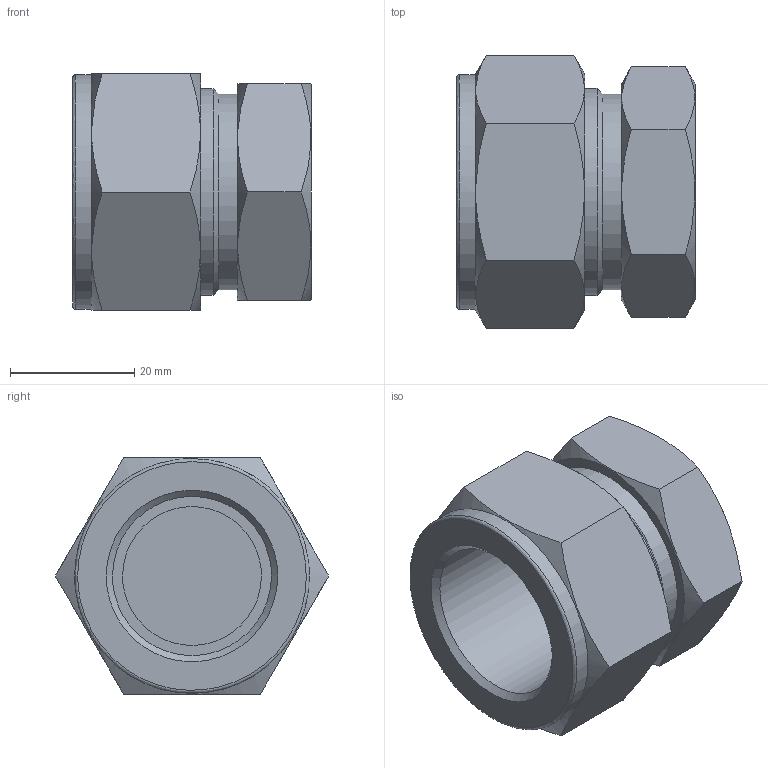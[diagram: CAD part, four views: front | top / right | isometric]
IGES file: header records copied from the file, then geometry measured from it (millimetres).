
Global section: file name: SC-16; native system: Autodesk Inventor 2016; preprocessor: unknown; author: DESIGNPC2; date: 20160312.133144; units: millimetre
Bounding box: 38.46 x 43.99 x 38.1 mm (x, y, z)
Volume: 25694.6 mm3; surface area: 10099.7 mm2
Topology: 1 solids, 1 shells, 35 faces, 88 edges, 59 vertices
Faces by surface type: bspline 35
